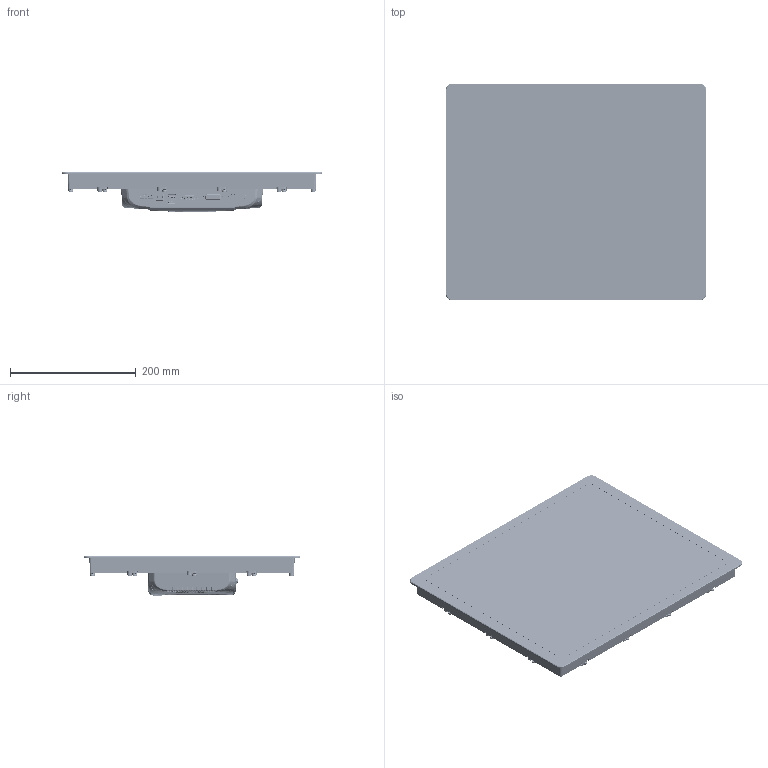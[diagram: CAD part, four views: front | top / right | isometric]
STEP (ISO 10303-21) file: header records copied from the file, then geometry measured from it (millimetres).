
FILE_DESCRIPTION(/* description */ (''),/* implementation_level */ '2;1');
FILE_NAME(/* name */ '17.0.stp',/* time_stamp */ '2026-03-11T16:20:33+08:00',/* author */ (''),/* organization */ (''),/* preprocessor_version */ 'ST-DEVELOPER v16',/* originating_system */ 'SIEMENS PLM Software NX 10.0',/* authorisation */ '');
FILE_SCHEMA (('AP203_CONFIGURATION_CONTROLLED_3D_DESIGN_OF_MECHANICAL_PARTS_AND_ASSEMBLIES_MIM_LF { 1 0 10303 403 2 1 2}'));
Products named in the file (1): Admi03F87D75pshb
Bounding box: 414 x 345 x 63.6 mm (x, y, z)
Volume: 991642.2 mm3; surface area: 895753.2 mm2
Topology: 158 solids, 172 shells, 15384 faces, 38068 edges, 23266 vertices
Faces by surface type: plane 6444, cylinder 4833, bspline 2650, torus 819, sphere 340, cone 298
Full cylindrical faces by diameter (mm): 4.5 x1, 6 x14, 7 x14
Entity records: 564259 total; most frequent: CARTESIAN_POINT 226952, ORIENTED_EDGE 75454, DIRECTION 63271, EDGE_CURVE 37727, VERTEX_POINT 23235, AXIS2_PLACEMENT_3D 21764, LINE 19743, VECTOR 19743
